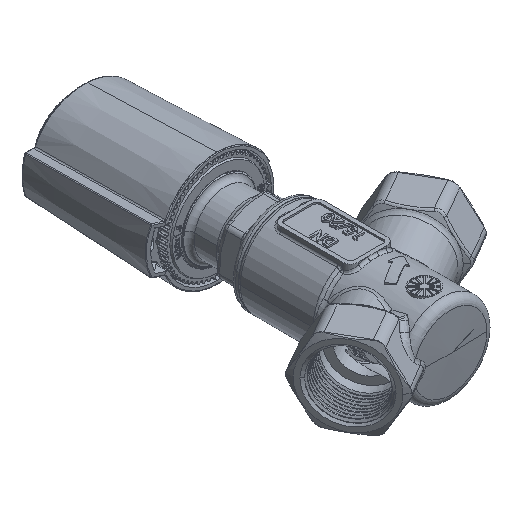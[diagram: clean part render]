
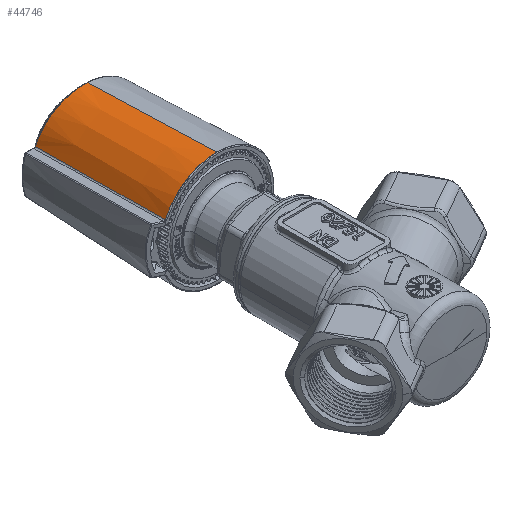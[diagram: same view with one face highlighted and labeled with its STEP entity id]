
A CAD part, isometric view. The second image highlights one B-rep face of the part: STEP entity #44746.
In plain terms, the highlighted conical face has half-angle 2 degrees and reference radius 22.038 mm.
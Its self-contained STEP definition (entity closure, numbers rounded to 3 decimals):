
#397 = DIRECTION ( 'NONE',  ( 0., 1., 0. ) ) ;
#2465 = CARTESIAN_POINT ( 'NONE',  ( -5.52, 82.814, 20.067 ) ) ;
#2768 = CARTESIAN_POINT ( 'NONE',  ( -3.203, 82.654, 20.28 ) ) ;
#4205 = CARTESIAN_POINT ( 'NONE',  ( -14.274, 83.417, 16.494 ) ) ;
#4774 = CARTESIAN_POINT ( 'NONE',  ( -22.441, 32.66, 9.382 ) ) ;
#5122 = CARTESIAN_POINT ( 'NONE',  ( -19.618, 83.784, 11.005 ) ) ;
#7392 = CARTESIAN_POINT ( 'NONE',  ( -3.742, 82.691, 20.255 ) ) ;
#7423 = ORIENTED_EDGE ( 'NONE', *, *, #48953, .T. ) ;
#7702 = CARTESIAN_POINT ( 'NONE',  ( -10.983, 83.19, 18.42 ) ) ;
#8836 = CARTESIAN_POINT ( 'NONE',  ( -14.94, 83.463, 15.998 ) ) ;
#9137 = CARTESIAN_POINT ( 'NONE',  ( -2.5, 82.606, 20.293 ) ) ;
#9242 = AXIS2_PLACEMENT_3D ( 'NONE', #47774, #397, #18625 ) ;
#9408 = DIRECTION ( 'NONE',  ( 0., -0.999, 0.035 ) ) ;
#11727 = CARTESIAN_POINT ( 'NONE',  ( -14.097, 83.405, 16.619 ) ) ;
#12210 = B_SPLINE_CURVE_WITH_KNOTS ( 'NONE', 3,
 ( #9137, #13769, #16975, #54773, #30930, #32678, #2768, #60817, #49828, #7392, #55085, #51577, #2465, #26267, #36195, #18405, #49524, #39946, #41997, #12333, #21599, #13468, #59404, #50142, #28017, #54160, #7702, #21914, #58806, #25957, #40851, #16372, #59702, #11727, #17285, #4205, #51264, #8836, #27711, #46639, #42914, #47553, #5122, #57431, #52483 ),
 .UNSPECIFIED., .F., .F.,
 ( 4, 2, 2, 2, 1, 1, 2, 2, 2, 2, 2, 1, 1, 1, 1, 2, 2, 2, 1, 2, 2, 1, 1, 2, 2, 2, 4 ),
 ( 0.489, 0.497, 0.499, 0.5, 0.501, 0.505, 0.521, 0.553, 0.617, 0.625, 0.625, 0.626, 0.627, 0.629, 0.633, 0.649, 0.681, 0.745, 0.749, 0.75, 0.751, 0.753, 0.761, 0.777, 0.808, 0.872, 1. ),
 .UNSPECIFIED. ) ;
#12333 = CARTESIAN_POINT ( 'NONE',  ( -8.935, 83.049, 19.23 ) ) ;
#13468 = CARTESIAN_POINT ( 'NONE',  ( -9.015, 83.055, 19.203 ) ) ;
#13769 = CARTESIAN_POINT ( 'NONE',  ( -2.671, 82.617, 20.293 ) ) ;
#14249 = ORIENTED_EDGE ( 'NONE', *, *, #18830, .T. ) ;
#15272 = CARTESIAN_POINT ( 'NONE',  ( -22.043, 50.417, 8.771 ) ) ;
#16372 = CARTESIAN_POINT ( 'NONE',  ( -14.06, 83.402, 16.645 ) ) ;
#16940 = VERTEX_POINT ( 'NONE', #46691 ) ;
#16975 = CARTESIAN_POINT ( 'NONE',  ( -2.845, 82.629, 20.29 ) ) ;
#17223 = VERTEX_POINT ( 'NONE', #59604 ) ;
#17285 = CARTESIAN_POINT ( 'NONE',  ( -14.138, 83.407, 16.591 ) ) ;
#18405 = CARTESIAN_POINT ( 'NONE',  ( -8.727, 83.035, 19.299 ) ) ;
#18625 = DIRECTION ( 'NONE',  ( 1., 0., 0. ) ) ;
#18748 = CARTESIAN_POINT ( 'NONE',  ( -2.5, 32.66, 0. ) ) ;
#18830 = EDGE_CURVE ( 'NONE', #26449, #53063, #12210, .T. ) ;
#19893 = CARTESIAN_POINT ( 'NONE',  ( -21.259, 83.898, 7.622 ) ) ;
#21190 = DIRECTION ( 'NONE',  ( 0., 0., 1. ) ) ;
#21599 = CARTESIAN_POINT ( 'NONE',  ( -8.959, 83.051, 19.222 ) ) ;
#21914 = CARTESIAN_POINT ( 'NONE',  ( -12.329, 83.283, 17.756 ) ) ;
#22134 = CONICAL_SURFACE ( 'NONE', #39957, 22.038, 0.035 ) ;
#25569 = VECTOR ( 'NONE', #9408, 1000. ) ;
#25957 = CARTESIAN_POINT ( 'NONE',  ( -13.945, 83.394, 16.725 ) ) ;
#26267 = CARTESIAN_POINT ( 'NONE',  ( -7.038, 82.918, 19.795 ) ) ;
#26449 = VERTEX_POINT ( 'NONE', #56743 ) ;
#27369 = LINE ( 'NONE', #51540, #25569 ) ;
#27711 = CARTESIAN_POINT ( 'NONE',  ( -15.556, 83.505, 15.504 ) ) ;
#28017 = CARTESIAN_POINT ( 'NONE',  ( -9.785, 83.108, 18.924 ) ) ;
#29237 = CARTESIAN_POINT ( 'NONE',  ( -21.259, 83.898, 7.622 ) ) ;
#30510 = DIRECTION ( 'NONE',  ( 0., -1., 0. ) ) ;
#30930 = CARTESIAN_POINT ( 'NONE',  ( -3.112, 82.648, 20.283 ) ) ;
#32678 = CARTESIAN_POINT ( 'NONE',  ( -3.18, 82.653, 20.28 ) ) ;
#34542 = ORIENTED_EDGE ( 'NONE', *, *, #52493, .F. ) ;
#36195 = CARTESIAN_POINT ( 'NONE',  ( -7.906, 82.978, 19.562 ) ) ;
#39946 = CARTESIAN_POINT ( 'NONE',  ( -8.909, 83.047, 19.239 ) ) ;
#39957 = AXIS2_PLACEMENT_3D ( 'NONE', #18748, #30510, #21190 ) ;
#40628 = EDGE_CURVE ( 'NONE', #17223, #16940, #41900, .T. ) ;
#40851 = CARTESIAN_POINT ( 'NONE',  ( -14.003, 83.398, 16.685 ) ) ;
#41900 = CIRCLE ( 'NONE', #9242, 22.038 ) ;
#41997 = CARTESIAN_POINT ( 'NONE',  ( -8.919, 83.048, 19.235 ) ) ;
#42914 = CARTESIAN_POINT ( 'NONE',  ( -17.082, 83.61, 14.101 ) ) ;
#43041 = B_SPLINE_CURVE_WITH_KNOTS ( 'NONE', 3,
 ( #19893, #47818, #15272, #4774 ),
 .UNSPECIFIED., .F., .F.,
 ( 4, 4 ),
 ( 0., 1. ),
 .UNSPECIFIED. ) ;
#44746 = ADVANCED_FACE ( 'NONE', ( #61169 ), #22134, .T. ) ;
#46639 = CARTESIAN_POINT ( 'NONE',  ( -15.95, 83.532, 15.161 ) ) ;
#46691 = CARTESIAN_POINT ( 'NONE',  ( -2.5, 32.66, 22.038 ) ) ;
#47553 = CARTESIAN_POINT ( 'NONE',  ( -17.769, 83.657, 13.349 ) ) ;
#47774 = CARTESIAN_POINT ( 'NONE',  ( -2.5, 32.66, 0. ) ) ;
#47818 = CARTESIAN_POINT ( 'NONE',  ( -21.649, 67.496, 8.185 ) ) ;
#48953 = EDGE_CURVE ( 'NONE', #53063, #17223, #43041, .T. ) ;
#49524 = CARTESIAN_POINT ( 'NONE',  ( -8.816, 83.041, 19.27 ) ) ;
#49828 = CARTESIAN_POINT ( 'NONE',  ( -3.339, 82.663, 20.274 ) ) ;
#50142 = CARTESIAN_POINT ( 'NONE',  ( -9.475, 83.086, 19.042 ) ) ;
#51264 = CARTESIAN_POINT ( 'NONE',  ( -14.625, 83.441, 16.24 ) ) ;
#51540 = CARTESIAN_POINT ( 'NONE',  ( -2.5, 32.66, 22.038 ) ) ;
#51577 = CARTESIAN_POINT ( 'NONE',  ( -4.978, 82.776, 20.144 ) ) ;
#52483 = CARTESIAN_POINT ( 'NONE',  ( -21.259, 83.898, 7.622 ) ) ;
#52493 = EDGE_CURVE ( 'NONE', #26449, #16940, #27369, .T. ) ;
#52604 = EDGE_LOOP ( 'NONE', ( #34542, #14249, #7423, #52911 ) ) ;
#52911 = ORIENTED_EDGE ( 'NONE', *, *, #40628, .T. ) ;
#53063 = VERTEX_POINT ( 'NONE', #29237 ) ;
#54160 = CARTESIAN_POINT ( 'NONE',  ( -10.515, 83.158, 18.63 ) ) ;
#54773 = CARTESIAN_POINT ( 'NONE',  ( -3.067, 82.645, 20.284 ) ) ;
#55085 = CARTESIAN_POINT ( 'NONE',  ( -4.114, 82.717, 20.227 ) ) ;
#56743 = CARTESIAN_POINT ( 'NONE',  ( -2.5, 82.606, 20.293 ) ) ;
#57431 = CARTESIAN_POINT ( 'NONE',  ( -20.57, 83.851, 9.323 ) ) ;
#58806 = CARTESIAN_POINT ( 'NONE',  ( -13.15, 83.339, 17.268 ) ) ;
#59404 = CARTESIAN_POINT ( 'NONE',  ( -9.127, 83.062, 19.164 ) ) ;
#59604 = CARTESIAN_POINT ( 'NONE',  ( -22.441, 32.66, 9.382 ) ) ;
#59702 = CARTESIAN_POINT ( 'NONE',  ( -14.083, 83.404, 16.629 ) ) ;
#60817 = CARTESIAN_POINT ( 'NONE',  ( -3.242, 82.657, 20.278 ) ) ;
#61169 = FACE_OUTER_BOUND ( 'NONE', #52604, .T. ) ;
